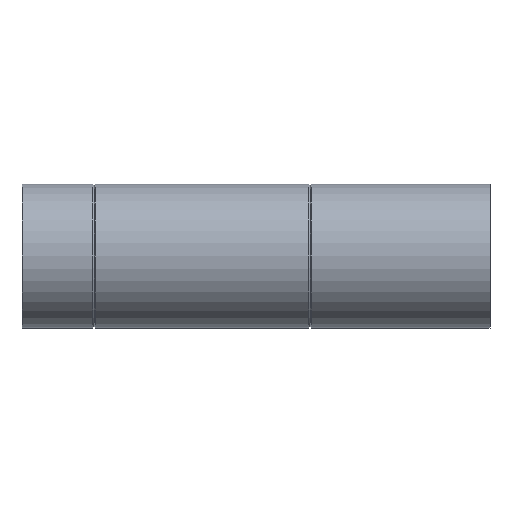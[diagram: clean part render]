
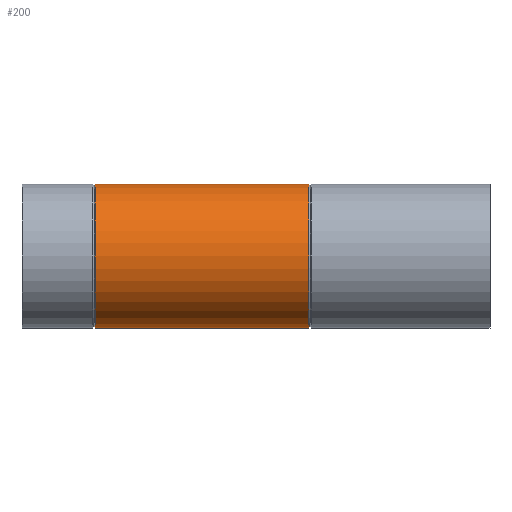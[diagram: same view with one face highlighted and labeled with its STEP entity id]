
A CAD part, left-side view. The second image highlights one B-rep face of the part: STEP entity #200.
In plain terms, the highlighted cylindrical face has radius 20 mm (diameter 40 mm), a full revolution.
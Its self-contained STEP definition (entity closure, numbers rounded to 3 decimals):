
#15=B_SPLINE_CURVE_WITH_KNOTS($,3,(#325,#326,#327,#328,#329,#330,#331,#332,
#333,#334,#335,#336,#337,#338,#339,#340,#341,#342,#343,#344,#345,#346,#347,
#348,#349,#350,#351,#352,#353,#354,#355,#356,#357,#358,#359,#360,#361,#362,
#363,#364,#365,#366,#367,#368,#369,#370,#371,#372,#373,#374,#375,#376,#377,
#378,#379,#380,#381,#382,#383,#384,#385,#386,#387,#388,#389,#390),
 .UNSPECIFIED.,.T.,.F.,(4,2,2,2,2,2,2,2,2,2,2,2,2,2,2,2,2,2,2,2,2,2,2,2,
2,2,2,2,2,2,2,2,4),(0.,0.331,0.663,0.994,
1.326,1.644,1.962,2.28,2.598,
2.916,3.234,3.552,3.87,4.201,
4.533,4.864,5.196,5.521,5.846,
6.171,6.495,6.813,7.131,7.449,
7.767,8.085,8.403,8.72,9.038,
9.363,9.688,10.013,10.338),
 .UNSPECIFIED.);
#17=CYLINDRICAL_SURFACE($,#222,20.);
#26=FACE_BOUND($,#63,.T.);
#27=FACE_BOUND($,#64,.T.);
#48=FACE_OUTER_BOUND($,#62,.T.);
#62=EDGE_LOOP($,(#145));
#63=EDGE_LOOP($,(#146));
#64=EDGE_LOOP($,(#147));
#94=CIRCLE($,#221,20.);
#95=CIRCLE($,#223,20.);
#109=VERTEX_POINT($,#319);
#110=VERTEX_POINT($,#322);
#111=VERTEX_POINT($,#324);
#126=EDGE_CURVE($,#109,#109,#94,.T.);
#127=EDGE_CURVE($,#110,#110,#95,.T.);
#128=EDGE_CURVE($,#111,#111,#15,.T.);
#145=ORIENTED_EDGE($,*,*,#127,.T.);
#146=ORIENTED_EDGE($,*,*,#128,.T.);
#147=ORIENTED_EDGE($,*,*,#126,.T.);
#200=ADVANCED_FACE($,(#48,#26,#27),#17,.T.);
#221=AXIS2_PLACEMENT_3D($,#320,#258,#259);
#222=AXIS2_PLACEMENT_3D($,#321,#260,#261);
#223=AXIS2_PLACEMENT_3D($,#323,#262,#263);
#258=DIRECTION('center_axis',(0.,-1.,0.));
#259=DIRECTION('ref_axis',(1.,0.,0.));
#260=DIRECTION('center_axis',(0.,1.,0.));
#261=DIRECTION('ref_axis',(1.,0.,0.));
#262=DIRECTION('center_axis',(0.,1.,0.));
#263=DIRECTION('ref_axis',(1.,0.,0.));
#319=CARTESIAN_POINT('',(20.,109.6,0.));
#320=CARTESIAN_POINT('Origin',(0.,109.6,0.));
#321=CARTESIAN_POINT('Origin',(0.,0.,0.));
#322=CARTESIAN_POINT('',(-20.,50.4,0.));
#323=CARTESIAN_POINT('Origin',(0.,50.4,0.));
#324=CARTESIAN_POINT('',(12.,75.814,16.));
#325=CARTESIAN_POINT('Ctrl Pts',(12.,75.814,16.));
#326=CARTESIAN_POINT('Ctrl Pts',(12.,76.919,16.));
#327=CARTESIAN_POINT('Ctrl Pts',(12.157,78.014,15.885));
#328=CARTESIAN_POINT('Ctrl Pts',(12.708,80.137,15.448));
#329=CARTESIAN_POINT('Ctrl Pts',(13.099,81.166,15.126));
#330=CARTESIAN_POINT('Ctrl Pts',(13.996,83.123,14.3));
#331=CARTESIAN_POINT('Ctrl Pts',(14.501,84.052,13.796));
#332=CARTESIAN_POINT('Ctrl Pts',(15.52,85.775,12.639));
#333=CARTESIAN_POINT('Ctrl Pts',(16.033,86.569,11.985));
#334=CARTESIAN_POINT('Ctrl Pts',(16.97,87.958,10.615));
#335=CARTESIAN_POINT('Ctrl Pts',(17.431,88.61,9.851));
#336=CARTESIAN_POINT('Ctrl Pts',(18.282,89.781,8.164));
#337=CARTESIAN_POINT('Ctrl Pts',(18.671,90.301,7.242));
#338=CARTESIAN_POINT('Ctrl Pts',(19.316,91.149,5.287));
#339=CARTESIAN_POINT('Ctrl Pts',(19.572,91.48,4.253));
#340=CARTESIAN_POINT('Ctrl Pts',(19.914,91.92,2.139));
#341=CARTESIAN_POINT('Ctrl Pts',(20.,92.029,1.06));
#342=CARTESIAN_POINT('Ctrl Pts',(20.,92.029,-1.06));
#343=CARTESIAN_POINT('Ctrl Pts',(19.914,91.92,-2.139));
#344=CARTESIAN_POINT('Ctrl Pts',(19.572,91.48,-4.253));
#345=CARTESIAN_POINT('Ctrl Pts',(19.316,91.149,-5.287));
#346=CARTESIAN_POINT('Ctrl Pts',(18.671,90.301,-7.242));
#347=CARTESIAN_POINT('Ctrl Pts',(18.282,89.781,-8.164));
#348=CARTESIAN_POINT('Ctrl Pts',(17.431,88.61,-9.851));
#349=CARTESIAN_POINT('Ctrl Pts',(16.97,87.958,-10.615));
#350=CARTESIAN_POINT('Ctrl Pts',(16.033,86.569,-11.985));
#351=CARTESIAN_POINT('Ctrl Pts',(15.52,85.775,-12.639));
#352=CARTESIAN_POINT('Ctrl Pts',(14.501,84.052,-13.796));
#353=CARTESIAN_POINT('Ctrl Pts',(13.996,83.123,-14.3));
#354=CARTESIAN_POINT('Ctrl Pts',(13.099,81.166,-15.126));
#355=CARTESIAN_POINT('Ctrl Pts',(12.708,80.137,-15.448));
#356=CARTESIAN_POINT('Ctrl Pts',(12.157,78.014,-15.885));
#357=CARTESIAN_POINT('Ctrl Pts',(12.,76.919,-16.));
#358=CARTESIAN_POINT('Ctrl Pts',(12.,74.731,-16.));
#359=CARTESIAN_POINT('Ctrl Pts',(12.151,73.656,-15.889));
#360=CARTESIAN_POINT('Ctrl Pts',(12.692,71.576,-15.461));
#361=CARTESIAN_POINT('Ctrl Pts',(13.078,70.57,-15.143));
#362=CARTESIAN_POINT('Ctrl Pts',(13.968,68.663,-14.327));
#363=CARTESIAN_POINT('Ctrl Pts',(14.47,67.761,-13.827));
#364=CARTESIAN_POINT('Ctrl Pts',(15.485,66.091,-12.68));
#365=CARTESIAN_POINT('Ctrl Pts',(15.997,65.324,-12.033));
#366=CARTESIAN_POINT('Ctrl Pts',(16.94,63.972,-10.663));
#367=CARTESIAN_POINT('Ctrl Pts',(17.408,63.334,-9.893));
#368=CARTESIAN_POINT('Ctrl Pts',(18.269,62.192,-8.193));
#369=CARTESIAN_POINT('Ctrl Pts',(18.663,61.688,-7.265));
#370=CARTESIAN_POINT('Ctrl Pts',(19.313,60.866,-5.299));
#371=CARTESIAN_POINT('Ctrl Pts',(19.571,60.547,-4.26));
#372=CARTESIAN_POINT('Ctrl Pts',(19.914,60.123,-2.14));
#373=CARTESIAN_POINT('Ctrl Pts',(20.,60.018,-1.06));
#374=CARTESIAN_POINT('Ctrl Pts',(20.,60.018,1.06));
#375=CARTESIAN_POINT('Ctrl Pts',(19.914,60.123,2.14));
#376=CARTESIAN_POINT('Ctrl Pts',(19.571,60.547,4.26));
#377=CARTESIAN_POINT('Ctrl Pts',(19.313,60.866,5.299));
#378=CARTESIAN_POINT('Ctrl Pts',(18.663,61.688,7.265));
#379=CARTESIAN_POINT('Ctrl Pts',(18.269,62.192,8.193));
#380=CARTESIAN_POINT('Ctrl Pts',(17.408,63.334,9.893));
#381=CARTESIAN_POINT('Ctrl Pts',(16.94,63.972,10.663));
#382=CARTESIAN_POINT('Ctrl Pts',(15.997,65.324,12.033));
#383=CARTESIAN_POINT('Ctrl Pts',(15.485,66.091,12.68));
#384=CARTESIAN_POINT('Ctrl Pts',(14.47,67.761,13.827));
#385=CARTESIAN_POINT('Ctrl Pts',(13.968,68.663,14.327));
#386=CARTESIAN_POINT('Ctrl Pts',(13.078,70.57,15.143));
#387=CARTESIAN_POINT('Ctrl Pts',(12.692,71.576,15.461));
#388=CARTESIAN_POINT('Ctrl Pts',(12.151,73.656,15.889));
#389=CARTESIAN_POINT('Ctrl Pts',(12.,74.731,16.));
#390=CARTESIAN_POINT('Ctrl Pts',(12.,75.814,16.));
